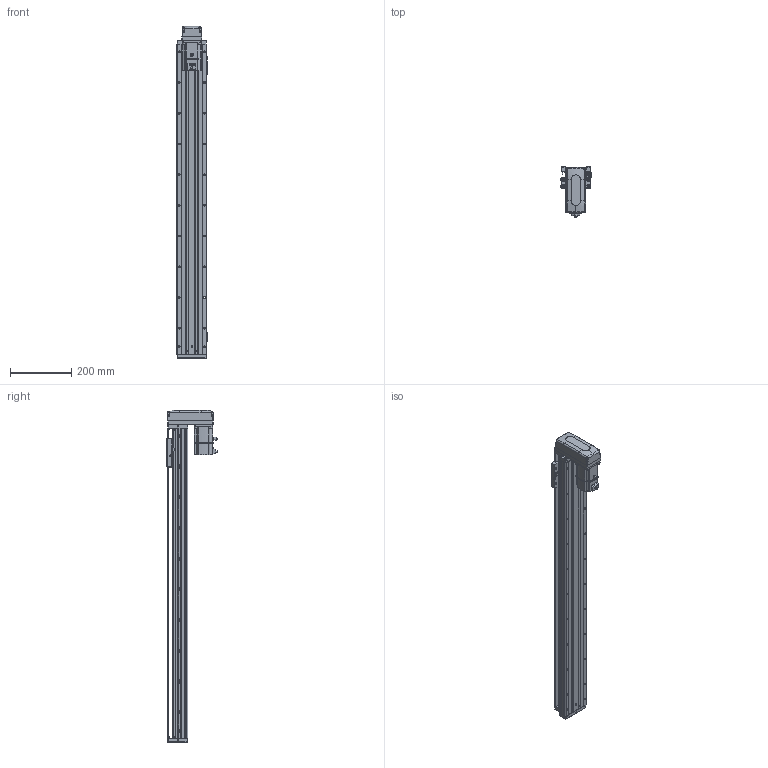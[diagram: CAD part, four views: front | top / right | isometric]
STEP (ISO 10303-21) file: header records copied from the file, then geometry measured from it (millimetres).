
FILE_DESCRIPTION (( 'STEP AP203' ), '1' );
FILE_NAME ('KTHA100-850-BM-M20-C4L.step', '2022-04-26T01:54:38', ( '微软用户' ), ( '微软中国' ), 'SwSTEP 2.0', 'SolidWorks 2020', '' );
FILE_SCHEMA (( 'CONFIG_CONTROL_DESIGN' ));
Length unit declared in the file: millimetre
Products named in the file (17): EE_SX911P_R; GBT 70.3-M3℅6; CTHA60-017; _X2_4E0983F1_X0_200W_1; KTHA100-001_1010; CTHA60-021; CTHA86-015-1_CTHA86-015-2; KTHA100-002; GBT77-2000 M3×3; CTHA86-033; KTHA100-004; GBT 70.1-M3℅6; KTHA100-850-BM-M20-C4L; KTHA100-005; GBT70.1 M5℅16; GB¨uT 70.2-M3¡Á5_M3¡Á6; CTHA60-016
Assembly tree (57 placements, depth 2):
  KTHA100-850-BM-M20-C4L
    KTHA100-001_1010
    KTHA100-002
    KTHA100-004
    KTHA100-005
    GB¨uT 70.2-M3¡Á5_M3¡Á6  x6
    EE_SX911P_R  x3
    CTHA60-017  x3
    CTHA60-021  x2
    GBT77-2000 M3×3  x6
    GBT 70.1-M3℅6  x10
    GBT70.1 M5℅16  x14
    CTHA60-016  x2
    GBT 70.3-M3℅6  x4
    _X2_4E0983F1_X0_200W_1
    CTHA86-015-1_CTHA86-015-2
    CTHA86-033
Bounding box: 98.82 x 163.2 x 1081 mm (x, y, z)
Volume: 4583027.8 mm3; surface area: 743787.1 mm2
Topology: 60 solids, 60 shells, 2497 faces, 6001 edges, 3724 vertices
Faces by surface type: plane 1280, cylinder 695, cone 315, torus 116, bspline 75, sphere 16
Entity records: 43886 total; most frequent: CARTESIAN_POINT 8784, DIRECTION 6822, ORIENTED_EDGE 6614, EDGE_CURVE 3307, AXIS2_PLACEMENT_3D 2370, VERTEX_POINT 2084, LINE 2082, VECTOR 2082
